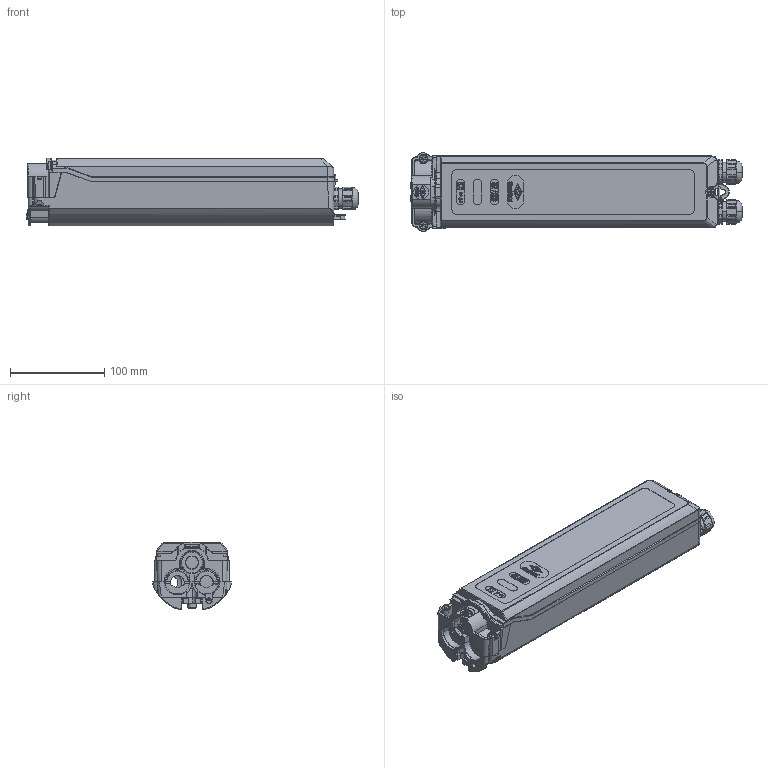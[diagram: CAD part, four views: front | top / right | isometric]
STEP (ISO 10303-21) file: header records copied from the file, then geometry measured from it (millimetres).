
FILE_DESCRIPTION (( 'STEP AP203' ), '1' );
FILE_NAME ('3D - HSW2530-M20 Außenkontur.STEP', '2019-06-28T09:23:33', ( '' ), ( '' ), 'SwSTEP 2.0', 'SolidWorks 2013', '' );
FILE_SCHEMA (( 'CONFIG_CONTROL_DESIGN' ));
Length unit declared in the file: millimetre
Products named in the file (1): 3D - HSW2530-M20 Außenkontur
Bounding box: 353.13 x 83.5 x 71.86 mm (x, y, z)
Surface area: 127527 mm2 (no closed solid volume)
Topology: 0 solids, 23 shells, 1272 faces, 4516 edges, 3192 vertices
Faces by surface type: plane 579, cylinder 370, bspline 136, cone 95, torus 86, sphere 6
Entity records: 59327 total; most frequent: CARTESIAN_POINT 22906, ORIENTED_EDGE 7398, DIRECTION 6849, EDGE_CURVE 4514, VERTEX_POINT 3192, LINE 2597, VECTOR 2597, AXIS2_PLACEMENT_3D 2126
